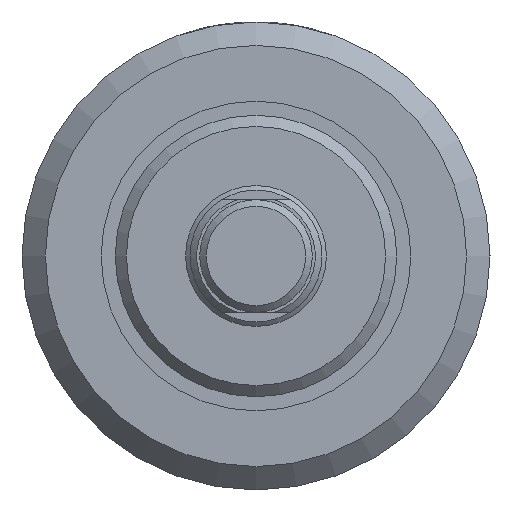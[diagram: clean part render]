
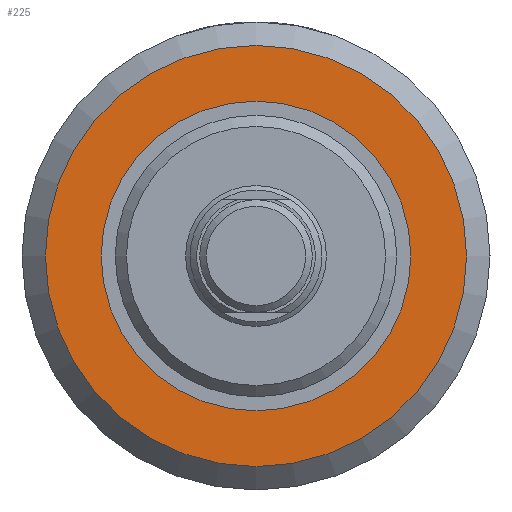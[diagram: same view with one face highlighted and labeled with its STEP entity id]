
A CAD part, left-side view. The second image highlights one B-rep face of the part: STEP entity #225.
In plain terms, the highlighted planar face has unit normal (-1, 0, 0).
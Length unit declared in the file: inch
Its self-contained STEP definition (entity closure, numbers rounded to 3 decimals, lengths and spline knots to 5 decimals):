
#225 = ADVANCED_FACE( '', ( #472, #473 ), #474, .F. );
#472 = FACE_OUTER_BOUND( '', #726, .T. );
#473 = FACE_BOUND( '', #727, .T. );
#474 = PLANE( '', #728 );
#726 = EDGE_LOOP( '', ( #1096 ) );
#727 = EDGE_LOOP( '', ( #1097 ) );
#728 = AXIS2_PLACEMENT_3D( '', #1098, #1099, #1100 );
#1096 = ORIENTED_EDGE( '', *, *, #1313, .F. );
#1097 = ORIENTED_EDGE( '', *, *, #1253, .T. );
#1098 = CARTESIAN_POINT( '', ( 0.813, 0.6875, 0. ) );
#1099 = DIRECTION( '', ( 1., 0., 0. ) );
#1100 = DIRECTION( '', ( 0., 0., -1. ) );
#1253 = EDGE_CURVE( '', #1419, #1419, #1420, .T. );
#1313 = EDGE_CURVE( '', #1513, #1513, #1514, .T. );
#1419 = VERTEX_POINT( '', #1745 );
#1420 = CIRCLE( '', #1746, 0.6875 );
#1513 = VERTEX_POINT( '', #1850 );
#1514 = CIRCLE( '', #1851, 0.9351 );
#1745 = CARTESIAN_POINT( '', ( 0.813, 0., -0.6875 ) );
#1746 = AXIS2_PLACEMENT_3D( '', #2121, #2122, #2123 );
#1850 = CARTESIAN_POINT( '', ( 0.813, 0., -0.9351 ) );
#1851 = AXIS2_PLACEMENT_3D( '', #2223, #2224, #2225 );
#2121 = CARTESIAN_POINT( '', ( 0.813, 0., 0. ) );
#2122 = DIRECTION( '', ( 1., 0., 0. ) );
#2123 = DIRECTION( '', ( 0., 0., -1. ) );
#2223 = CARTESIAN_POINT( '', ( 0.813, 0., 0. ) );
#2224 = DIRECTION( '', ( 1., 0., 0. ) );
#2225 = DIRECTION( '', ( 0., 0., -1. ) );
